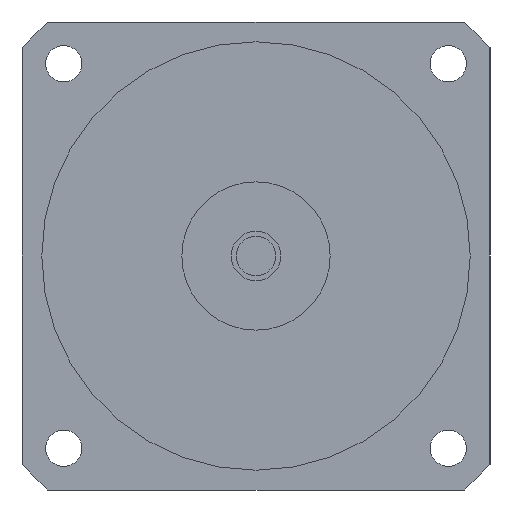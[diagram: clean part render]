
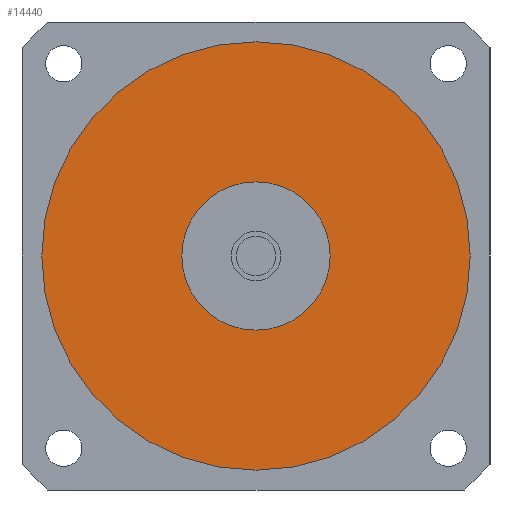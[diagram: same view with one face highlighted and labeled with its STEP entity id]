
A CAD part, left-side view. The second image highlights one B-rep face of the part: STEP entity #14440.
In plain terms, the highlighted planar face has unit normal (-1, 0, 0) as drawn and (0, 0, -1) by its records, which use the part's own axes.
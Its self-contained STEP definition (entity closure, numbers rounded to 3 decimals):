
#13920=CARTESIAN_POINT('',(-65.,0.,-38.7));
#13930=VERTEX_POINT('',#13920);
#14010=CARTESIAN_POINT('',(65.,0.,-38.7));
#14020=VERTEX_POINT('',#14010);
#14050=CARTESIAN_POINT('',(0.,0.,
-38.7));
#14060=DIRECTION('',(0.,0.,1.));
#14070=DIRECTION('',(1.,0.,0.));
#14080=AXIS2_PLACEMENT_3D('',#14050,#14060,#14070);
#14090=CIRCLE('',#14080,65.);
#14100=EDGE_CURVE('',#13930,#14020,#14090,.T.);
#14150=CARTESIAN_POINT('',(0.,0.,
-38.7));
#14160=DIRECTION('',(0.,0.,1.));
#14170=DIRECTION('',(-1.,0.,0.));
#14180=AXIS2_PLACEMENT_3D('',#14150,#14160,#14170);
#14190=PLANE('',#14180);
#14200=CARTESIAN_POINT('',(0.,0.,
-38.7));
#14210=DIRECTION('',(0.,0.,1.));
#14220=DIRECTION('',(0.,1.,0.));
#14230=AXIS2_PLACEMENT_3D('',#14200,#14210,#14220);
#14240=CIRCLE('',#14230,22.5);
#14250=CARTESIAN_POINT('',(-22.5,0.,-38.7));
#14260=VERTEX_POINT('',#14250);
#14270=CARTESIAN_POINT('',(22.5,0.,-38.7));
#14280=VERTEX_POINT('',#14270);
#14290=EDGE_CURVE('',#14260,#14280,#14240,.T.);
#14300=ORIENTED_EDGE('',*,*,#14290,.T.);
#14310=CARTESIAN_POINT('',(0.,22.5,-38.7));
#14320=VERTEX_POINT('',#14310);
#14330=EDGE_CURVE('',#14320,#14260,#14240,.T.);
#14340=ORIENTED_EDGE('',*,*,#14330,.T.);
#14350=EDGE_CURVE('',#14280,#14320,#14240,.T.);
#14360=ORIENTED_EDGE('',*,*,#14350,.T.);
#14370=EDGE_LOOP('',(#14360,#14340,#14300));
#14380=FACE_BOUND('',#14370,.T.);
#14390=EDGE_CURVE('',#14020,#13930,#14090,.T.);
#14400=ORIENTED_EDGE('',*,*,#14390,.F.);
#14410=ORIENTED_EDGE('',*,*,#14100,.F.);
#14420=EDGE_LOOP('',(#14410,#14400));
#14430=FACE_OUTER_BOUND('',#14420,.T.);
#14440=ADVANCED_FACE('',(#14380,#14430),#14190,.F.);
